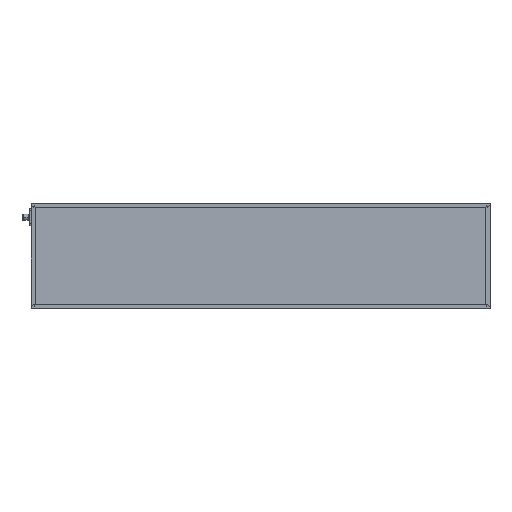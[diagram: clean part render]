
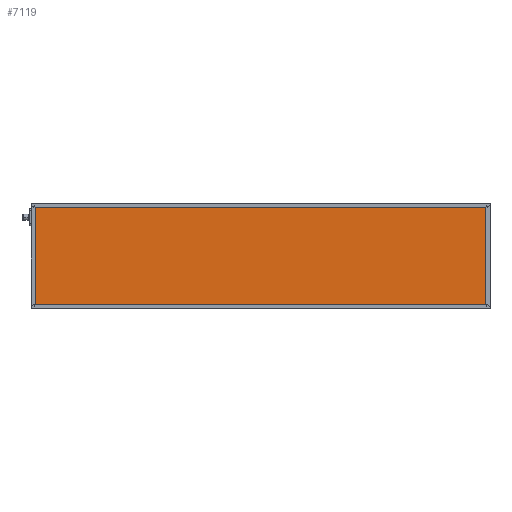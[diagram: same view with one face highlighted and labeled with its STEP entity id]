
A CAD part, top view. The second image highlights one B-rep face of the part: STEP entity #7119.
In plain terms, the highlighted planar face has unit normal (0, 0, 1).
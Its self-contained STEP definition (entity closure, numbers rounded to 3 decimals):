
#48 = ORIENTED_EDGE ( 'NONE', *, *, #3073, .T. ) ;
#375 = ORIENTED_EDGE ( 'NONE', *, *, #9963, .T. ) ;
#1412 = DIRECTION ( 'NONE',  ( -1., 0., 0. ) ) ;
#1677 = DIRECTION ( 'NONE',  ( 0., -1., 0. ) ) ;
#1833 = CARTESIAN_POINT ( 'NONE',  ( 896., 4., 41.85 ) ) ;
#1929 = LINE ( 'NONE', #16583, #16520 ) ;
#2424 = VERTEX_POINT ( 'NONE', #13017 ) ;
#2558 = LINE ( 'NONE', #7877, #12722 ) ;
#3073 = EDGE_CURVE ( 'NONE', #6681, #7450, #1929, .T. ) ;
#3257 = DIRECTION ( 'NONE',  ( 0., 1., 0. ) ) ;
#3812 = AXIS2_PLACEMENT_3D ( 'NONE', #16780, #6230, #14352 ) ;
#4747 = FACE_OUTER_BOUND ( 'NONE', #13102, .T. ) ;
#6102 = VERTEX_POINT ( 'NONE', #13821 ) ;
#6230 = DIRECTION ( 'NONE',  ( 0., 0., -1. ) ) ;
#6408 = EDGE_CURVE ( 'NONE', #2424, #6102, #10925, .T. ) ;
#6571 = VECTOR ( 'NONE', #1677, 1000. ) ;
#6681 = VERTEX_POINT ( 'NONE', #1833 ) ;
#6997 = CARTESIAN_POINT ( 'NONE',  ( 4., 0., 41.85 ) ) ;
#7038 = CARTESIAN_POINT ( 'NONE',  ( 0., 4., 41.85 ) ) ;
#7119 = ADVANCED_FACE ( 'NONE', ( #4747 ), #16873, .F. ) ;
#7450 = VERTEX_POINT ( 'NONE', #11886 ) ;
#7877 = CARTESIAN_POINT ( 'NONE',  ( 0., 196., 41.85 ) ) ;
#9171 = EDGE_CURVE ( 'NONE', #6102, #6681, #10876, .T. ) ;
#9479 = DIRECTION ( 'NONE',  ( 1., 0., 0. ) ) ;
#9963 = EDGE_CURVE ( 'NONE', #7450, #2424, #2558, .T. ) ;
#10876 = LINE ( 'NONE', #7038, #14103 ) ;
#10925 = LINE ( 'NONE', #6997, #6571 ) ;
#11413 = ORIENTED_EDGE ( 'NONE', *, *, #6408, .T. ) ;
#11886 = CARTESIAN_POINT ( 'NONE',  ( 896., 196., 41.85 ) ) ;
#12691 = ORIENTED_EDGE ( 'NONE', *, *, #9171, .T. ) ;
#12722 = VECTOR ( 'NONE', #1412, 1000. ) ;
#13017 = CARTESIAN_POINT ( 'NONE',  ( 4., 196., 41.85 ) ) ;
#13102 = EDGE_LOOP ( 'NONE', ( #48, #375, #11413, #12691 ) ) ;
#13821 = CARTESIAN_POINT ( 'NONE',  ( 4., 4., 41.85 ) ) ;
#14103 = VECTOR ( 'NONE', #9479, 1000. ) ;
#14352 = DIRECTION ( 'NONE',  ( -1., 0., 0. ) ) ;
#16520 = VECTOR ( 'NONE', #3257, 1000. ) ;
#16583 = CARTESIAN_POINT ( 'NONE',  ( 896., 0., 41.85 ) ) ;
#16780 = CARTESIAN_POINT ( 'NONE',  ( 0., 0., 41.85 ) ) ;
#16873 = PLANE ( 'NONE',  #3812 ) ;
